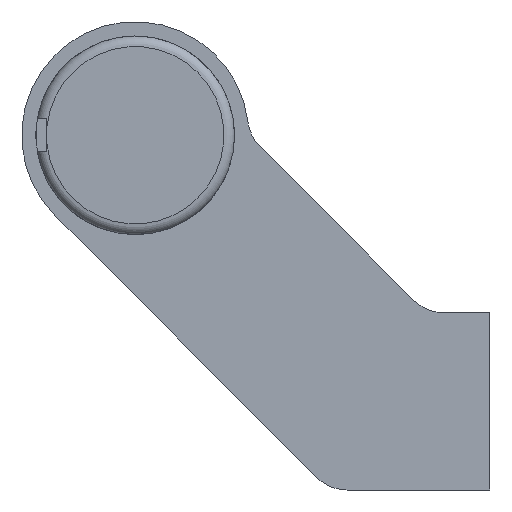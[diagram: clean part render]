
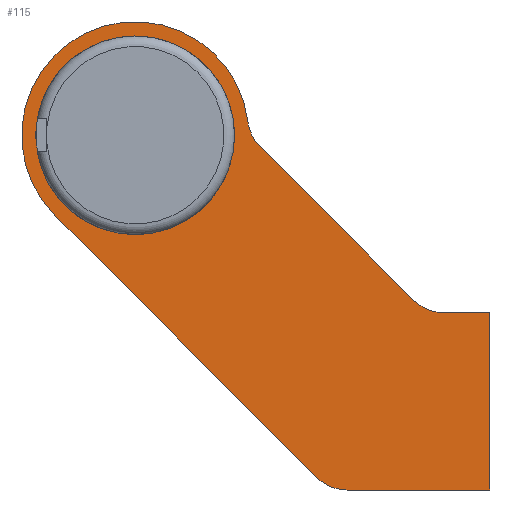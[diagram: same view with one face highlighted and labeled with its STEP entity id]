
A CAD part, left-side view. The second image highlights one B-rep face of the part: STEP entity #115.
In plain terms, the highlighted planar face has unit normal (-1, 0, 0).
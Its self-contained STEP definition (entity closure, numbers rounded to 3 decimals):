
#115 = ADVANCED_FACE( '', ( #215, #216 ), #217, .F. );
#215 = FACE_BOUND( '', #328, .T. );
#216 = FACE_OUTER_BOUND( '', #329, .T. );
#217 = PLANE( '', #330 );
#328 = EDGE_LOOP( '', ( #629 ) );
#329 = EDGE_LOOP( '', ( #630, #631, #632, #633, #634, #635, #636, #637, #638 ) );
#330 = AXIS2_PLACEMENT_3D( '', #639, #640, #641 );
#629 = ORIENTED_EDGE( '', *, *, #755, .T. );
#630 = ORIENTED_EDGE( '', *, *, #741, .F. );
#631 = ORIENTED_EDGE( '', *, *, #719, .F. );
#632 = ORIENTED_EDGE( '', *, *, #715, .F. );
#633 = ORIENTED_EDGE( '', *, *, #723, .F. );
#634 = ORIENTED_EDGE( '', *, *, #726, .F. );
#635 = ORIENTED_EDGE( '', *, *, #729, .T. );
#636 = ORIENTED_EDGE( '', *, *, #732, .F. );
#637 = ORIENTED_EDGE( '', *, *, #735, .T. );
#638 = ORIENTED_EDGE( '', *, *, #738, .F. );
#639 = CARTESIAN_POINT( '', ( -182., 50., 37.5 ) );
#640 = DIRECTION( '', ( 1., 0., 0. ) );
#641 = DIRECTION( '', ( 0., 0., -1. ) );
#715 = EDGE_CURVE( '', #840, #841, #842, .T. );
#719 = EDGE_CURVE( '', #841, #848, #849, .T. );
#723 = EDGE_CURVE( '', #855, #840, #856, .T. );
#726 = EDGE_CURVE( '', #860, #855, #861, .T. );
#729 = EDGE_CURVE( '', #860, #865, #866, .T. );
#732 = EDGE_CURVE( '', #870, #865, #871, .T. );
#735 = EDGE_CURVE( '', #870, #875, #876, .T. );
#738 = EDGE_CURVE( '', #880, #875, #881, .T. );
#741 = EDGE_CURVE( '', #848, #880, #885, .T. );
#755 = EDGE_CURVE( '', #907, #907, #908, .T. );
#840 = VERTEX_POINT( '', #1083 );
#841 = VERTEX_POINT( '', #1084 );
#842 = LINE( '', #1085, #1086 );
#848 = VERTEX_POINT( '', #1095 );
#849 = CIRCLE( '', #1096, 6. );
#855 = VERTEX_POINT( '', #1103 );
#856 = LINE( '', #1104, #1105 );
#860 = VERTEX_POINT( '', #1111 );
#861 = LINE( '', #1112, #1113 );
#865 = VERTEX_POINT( '', #1119 );
#866 = CIRCLE( '', #1120, 6. );
#870 = VERTEX_POINT( '', #1125 );
#871 = LINE( '', #1126, #1127 );
#875 = VERTEX_POINT( '', #1133 );
#876 = CIRCLE( '', #1134, 6. );
#880 = VERTEX_POINT( '', #1139 );
#881 = CIRCLE( '', #1140, 16. );
#885 = LINE( '', #1145, #1146 );
#907 = VERTEX_POINT( '', #1174 );
#908 = CIRCLE( '', #1175, 14. );
#1083 = CARTESIAN_POINT( '', ( -182., 0., -12.5 ) );
#1084 = CARTESIAN_POINT( '', ( -182., 20.142, -12.5 ) );
#1085 = CARTESIAN_POINT( '', ( -182., 0., -12.5 ) );
#1086 = VECTOR( '', #1265, 1000. );
#1095 = CARTESIAN_POINT( '', ( -182., 24.385, -10.743 ) );
#1096 = AXIS2_PLACEMENT_3D( '', #1269, #1270, #1271 );
#1103 = CARTESIAN_POINT( '', ( -182., 0., 12.5 ) );
#1104 = CARTESIAN_POINT( '', ( -182., 0., 12.5 ) );
#1105 = VECTOR( '', #1279, 1000. );
#1111 = CARTESIAN_POINT( '', ( -182., 6.515, 12.5 ) );
#1112 = CARTESIAN_POINT( '', ( -182., 6.515, 12.5 ) );
#1113 = VECTOR( '', #1282, 1000. );
#1119 = CARTESIAN_POINT( '', ( -182., 10.757, 14.257 ) );
#1120 = AXIS2_PLACEMENT_3D( '', #1285, #1286, #1287 );
#1125 = CARTESIAN_POINT( '', ( -182., 32.402, 35.902 ) );
#1126 = CARTESIAN_POINT( '', ( -182., 32.402, 35.902 ) );
#1127 = VECTOR( '', #1292, 1000. );
#1133 = CARTESIAN_POINT( '', ( -182., 34.116, 39.424 ) );
#1134 = AXIS2_PLACEMENT_3D( '', #1295, #1296, #1297 );
#1139 = CARTESIAN_POINT( '', ( -182., 61.314, 26.186 ) );
#1140 = AXIS2_PLACEMENT_3D( '', #1302, #1303, #1304 );
#1145 = CARTESIAN_POINT( '', ( -182., 24.385, -10.743 ) );
#1146 = VECTOR( '', #1309, 1000. );
#1174 = CARTESIAN_POINT( '', ( -182., 50., 23.5 ) );
#1175 = AXIS2_PLACEMENT_3D( '', #1337, #1338, #1339 );
#1265 = DIRECTION( '', ( 0., 1., 0. ) );
#1269 = CARTESIAN_POINT( '', ( -182., 20.142, -6.5 ) );
#1270 = DIRECTION( '', ( 1., 0., 0. ) );
#1271 = DIRECTION( '', ( 0., 0., -1. ) );
#1279 = DIRECTION( '', ( 0., 0., -1. ) );
#1282 = DIRECTION( '', ( 0., -1., 0. ) );
#1285 = CARTESIAN_POINT( '', ( -182., 6.515, 18.5 ) );
#1286 = DIRECTION( '', ( 1., 0., 0. ) );
#1287 = DIRECTION( '', ( 0., 0., -1. ) );
#1292 = DIRECTION( '', ( 0., -0.707, -0.707 ) );
#1295 = CARTESIAN_POINT( '', ( -182., 28.16, 40.145 ) );
#1296 = DIRECTION( '', ( 1., 0., 0. ) );
#1297 = DIRECTION( '', ( 0., 0., -1. ) );
#1302 = CARTESIAN_POINT( '', ( -182., 50., 37.5 ) );
#1303 = DIRECTION( '', ( 1., 0., 0. ) );
#1304 = DIRECTION( '', ( 0., 0., -1. ) );
#1309 = DIRECTION( '', ( 0., 0.707, 0.707 ) );
#1337 = CARTESIAN_POINT( '', ( -182., 50., 37.5 ) );
#1338 = DIRECTION( '', ( 1., 0., 0. ) );
#1339 = DIRECTION( '', ( 0., 0., -1. ) );
